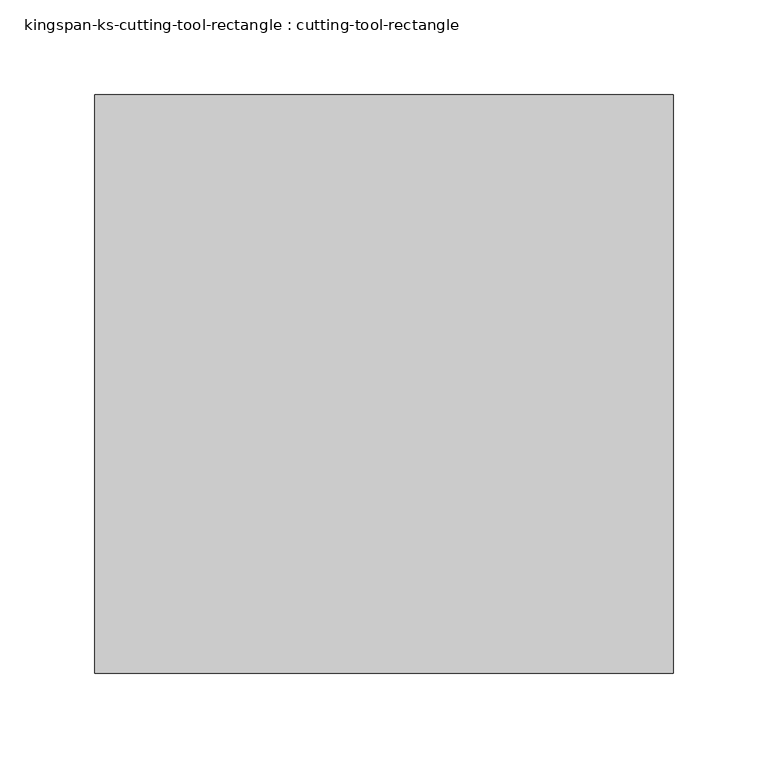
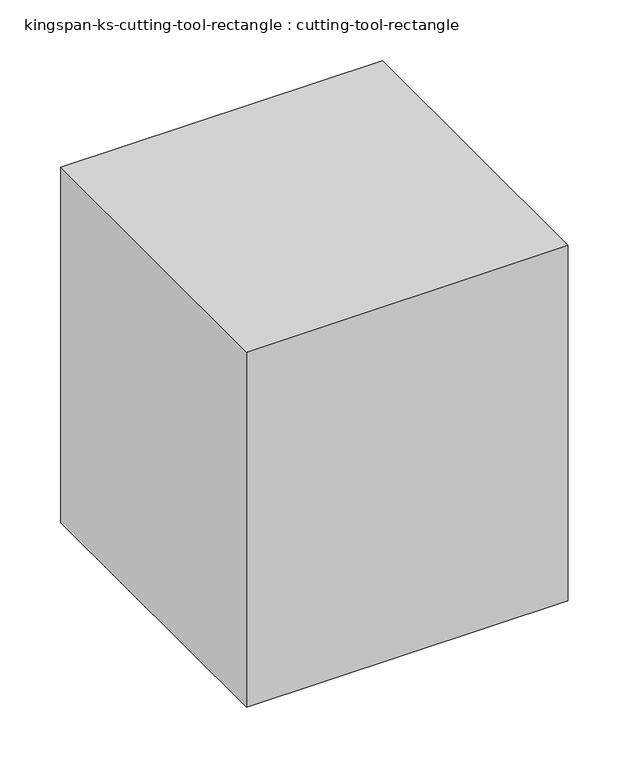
"""IFC4 building model written with IfcOpenShell, lengths in millimetres: proxy geometry, kingspan-ks-cutting-tool-rectangle : cutting-tool-rectangle."""

from ifc_helpers import new_model, si_unit, frame, origin, place, context, project, spatial, polyline, outline, extrude, source, transform, mapped, element, save


def kingspan_ks_cutting_tool_rectangle_cutting_tool_rectangle_f435e5aa(model_context):
    return source(origin(), model_context, "Body", "SweptSolid", [
        extrude(outline(polyline([(152.4, 152.4), (152.4, -152.4), (-152.4, -152.4), (-152.4, 152.4), (152.4, 152.4)])), frame((0.0, 0.0, -254.0), z_axis=(0.0, 0.0, 1.0), x_axis=(1.0, 0.0, 0.0)), (0.0, 0.0, 1.0), 355.6),
    ])


if __name__ == "__main__":
    model = new_model("IFC4")
    model_context = context("Model", 3, world=origin())
    ifc_project = project(units=[si_unit("LENGTHUNIT", "METRE", prefix="MILLI")], contexts=[model_context])
    site = spatial("IfcSite", under=ifc_project)
    building = spatial("IfcBuilding", under=site)
    placement = place(None, origin())
    kingspan_ks_cutting_tool_rectangle_cutting_tool_rectangle_shape = kingspan_ks_cutting_tool_rectangle_cutting_tool_rectangle_f435e5aa(model_context)
    element("IfcBuildingElementProxy", 1, Name="kingspan-ks-cutting-tool-rectangle : cutting-tool-rectangle", ObjectType="kingspan-ks-cutting-tool-rectangle : cutting-tool-rectangle", at=placement, inside=building, context=model_context, shape_type="MappedRepresentation", body=[
        mapped(kingspan_ks_cutting_tool_rectangle_cutting_tool_rectangle_shape, transform((0.0, 0.0, 0.0), x_axis=(1.0, 0.0, 0.0), y_axis=(0.0, 1.0, 0.0), z_axis=(0.0, 0.0, 1.0))),
    ])
    save(model, "model.ifc")
